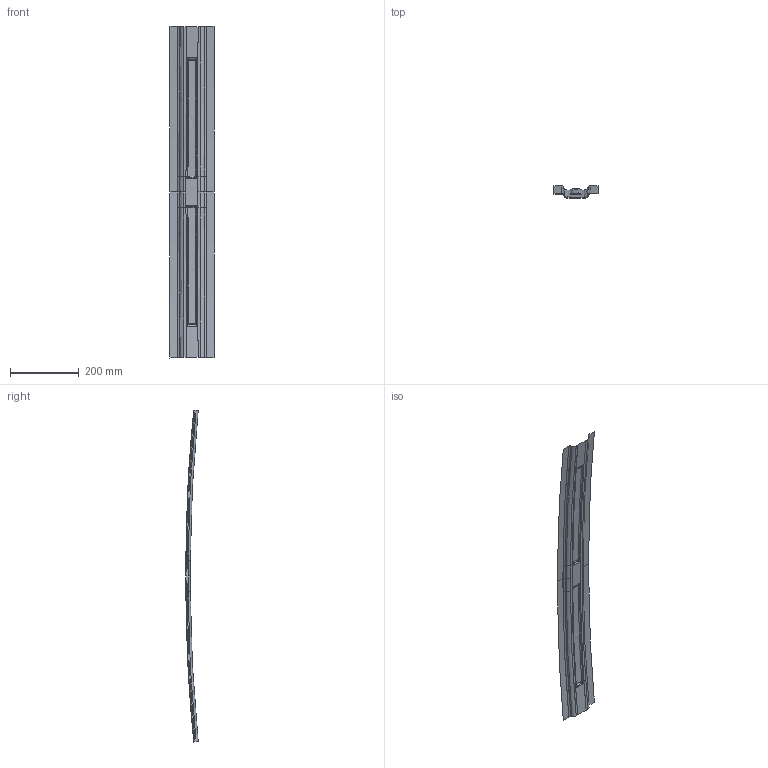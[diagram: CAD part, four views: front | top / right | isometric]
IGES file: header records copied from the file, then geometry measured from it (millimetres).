
Start section: START IGES DATA FILE
Global section: file name: roof_bow.igs; native system: DYNAFORM VER.3.1,DYNAFORM IGES TRANSLATOR, ENGINEERING TECHNOLOGY ASSOCIATES, INC.; preprocessor: 980406; date: 040324.144241; units: millimetre
Bounding box: 128.04 x 36.08 x 962.36 mm (x, y, z)
Surface area: 136115 mm2 (no closed solid volume)
Topology: 0 solids, 0 shells, 93 faces, 459 edges, 450 vertices
Faces by surface type: bspline 93
